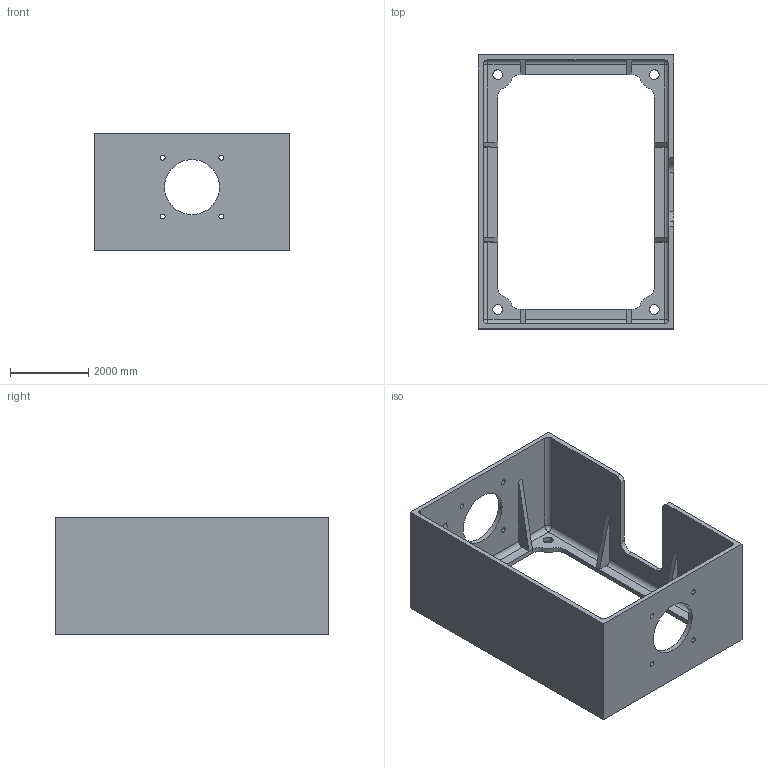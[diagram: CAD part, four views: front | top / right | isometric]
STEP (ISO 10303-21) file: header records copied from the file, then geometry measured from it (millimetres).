
FILE_DESCRIPTION( ( 'STEP AP203' ), '1' );
FILE_NAME( '//Phlsrv1/users/General_Drop_Box/femap81/Examples/mp.STP', '2003-08-20T17:02:10', ( ' ' ), ( ' ' ), 'XStep 1.0', ' ', ' ' );
FILE_SCHEMA( ( 'CONFIG_CONTROL_DESIGN' ) );
Length unit declared in the file: metre
Products named in the file (1): 1
Bounding box: 5000 x 7000 x 3000 mm (x, y, z)
Volume: 9475544697.3 mm3; surface area: 155415917.8 mm2
Topology: 1 solids, 1 shells, 113 faces, 308 edges, 192 vertices
Faces by surface type: cylinder 58, plane 51, sphere 4
Entity records: 3651 total; most frequent: CARTESIAN_POINT 650, DIRECTION 632, ORIENTED_EDGE 608, EDGE_CURVE 304, AXIS2_PLACEMENT_3D 230, VERTEX_POINT 192, LINE 172, VECTOR 172
